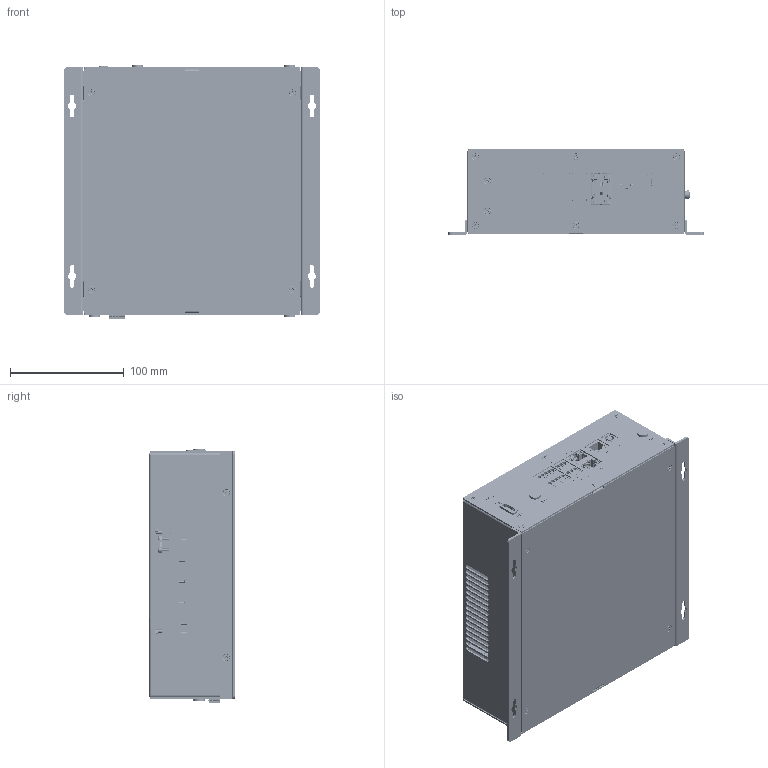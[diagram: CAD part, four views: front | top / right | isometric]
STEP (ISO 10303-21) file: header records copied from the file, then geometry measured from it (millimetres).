
FILE_DESCRIPTION((''),'2;1');
FILE_NAME('301F1E5-00_ASM','2025-11-24T11:32:18',('Lenovo'),(''),'CREO PARAMETRIC BY PTC INC, 2022073','CREO PARAMETRIC BY PTC INC, 2022073','');
FILE_SCHEMA(('AUTOMOTIVE_DESIGN { 1 0 10303 214 1 1 1 1 }'));
Products named in the file (240): 00; GB_T17880_1_2_M3-20; GB_T17880_2_1_M3; M40001; 00_ASM; GB_T900_1_M3-31-5; GBT_818-M3X8; PCB00; 0006; FSXL; PCB0001_ASM; GBT_818-M2_5X8; 000; 010001; CXDB5CCAM-MK; HI1951; AI310SM-V3PCB0; CSFU1050-R12L; 85EAM-401035XX-1090001; NAE12S17-B; BPD80690; NPE2A053-064G; AW2001-3P; NAE12S20-C; HI6421; ESEMB040_AI310SM200002_ASM; ESEMB040_AI310SM200001_ASM; 0010; 0011; 1000; 2000; 020001; GBT_819_1-M2_5X10; 0009_ASM; GBT_818-M2_5X20; GB_T900_1_M3-16-5; MX25L512EMI-10G_1; UPD720201K8-711-BAC-A_1; PCR1H181MCL1GS_1; PA2512FKF7T0R001E_1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
Assembly tree (1997 placements, depth 8):
  301F1E5-00_ASM
    00_ASM
      00
      GB_T17880_1_2_M3-20  x9
      GB_T17880_2_1_M3  x18
      M40001
    GB_T900_1_M3-31-5  x2
    GBT_818-M3X8  x15
    PCB0001_ASM
      PCB00
      0006  x4
      FSXL
    GBT_818-M2_5X8  x4
    000
    000
    010001  x2
    0009_ASM
      ESEMB040_AI310SM200001_ASM
        ESEMB040_AI310SM200002_ASM
          CXDB5CCAM-MK  x12
          HI1951
          AI310SM-V3PCB0
          CSFU1050-R12L  x9
          85EAM-401035XX-1090001
          NAE12S17-B  x3
          BPD80690  x9
          NPE2A053-064G
          AW2001-3P
          NAE12S20-C
          HI6421
      0010
      0011
      1000
      2000
      020001
      GBT_819_1-M2_5X10  x5
    GBT_818-M2_5X20  x6
    GB_T900_1_M3-16-5  x2
    0001_ASM
      GC-A301-V1-0-20250111_ASM_ASM
        GC-A301-V1-0-20250111_ASM_1_ASM
          MX25L512EMI-10G_1
          UPD720201K8-711-BAC-A_1
          PCR1H181MCL1GS_1  x3
          PA2512FKF7T0R001E_1
          WSL36376L000FEA_1  x2
          W25X10CLSNIG_1
          NCA9306-DTSHR_1  x2
          NAE12S03-B_1  x7
          SFP0074EP-L_1
          NAE12S20-C_1  x2
          STC8H1K08-36I-QFN20_1
          FH55-22S-0_5SH_1
          NAM12S06-D_1
          WGI210IS_1
          ASM1806_1
          85EAF-40105010-109-C02_1
          HOLE4R22-D6R2MM_1  x4
          TP40_1  x21
          HDR254M-1X2_1
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Bounding box: 225 x 75.5 x 223.5 mm (x, y, z)
Volume: 544788.8 mm3; surface area: 652672.6 mm2
Topology: 2086 solids, 2198 shells, 47567 faces, 122582 edges, 80708 vertices
Faces by surface type: plane 35775, cylinder 7861, extrusion 2236, bspline 843, torus 367, sphere 248, cone 235, revolution 2
Entity records: 961938 total; most frequent: CARTESIAN_POINT 231714, ORIENTED_EDGE 138560, DIRECTION 129478, EDGE_CURVE 69328, VECTOR 52426, LINE 51982, VERTEX_POINT 45728, AXIS2_PLACEMENT_3D 38525
